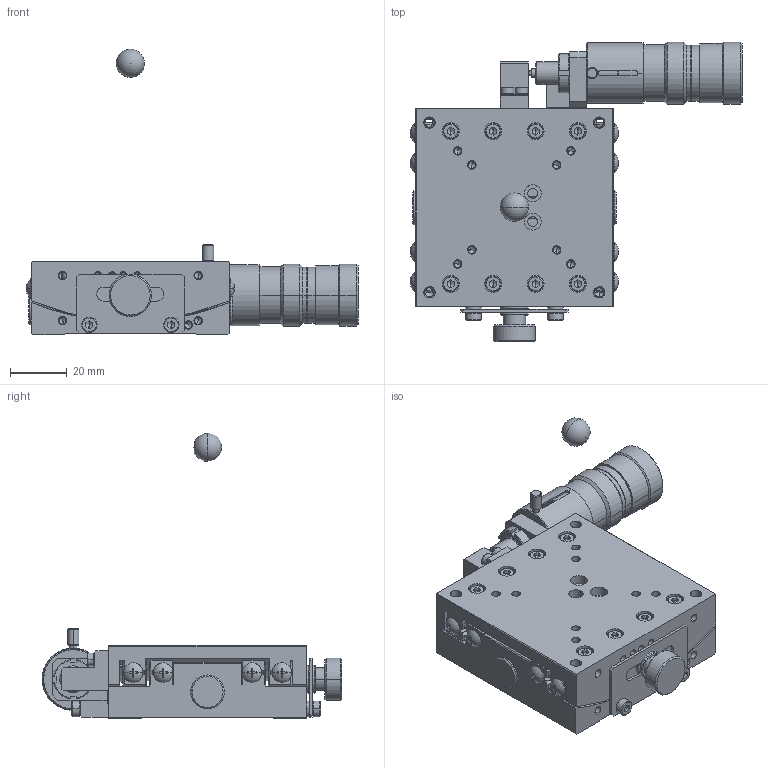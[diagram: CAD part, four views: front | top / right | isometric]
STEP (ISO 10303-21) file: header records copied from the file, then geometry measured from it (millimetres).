
FILE_DESCRIPTION (( 'STEP AP214' ), '1' );
FILE_NAME ('ST07A-S3T-R-CL.STEP', '2007-01-19T02:14:01', ( ' ' ), ( ' ' ), 'SwSTEP 2.0', 'SolidWorks 2006052', '' );
FILE_SCHEMA (( 'AUTOMOTIVE_DESIGN' ));
Length unit declared in the file: millimetre
Products named in the file (5): 002590-1020(3D)-1; ST07A-S3T-R-CL-Part-1; FFP03-13(spindle)-1; ST07A-S3T-R-CL; 002590-1011(3D)-1
Assembly tree (4 placements, depth 2):
  ST07A-S3T-R-CL
    002590-1011(3D)-1
    002590-1020(3D)-1
    ST07A-S3T-R-CL-Part-1
    FFP03-13(spindle)-1
Bounding box: 117.39 x 106 x 101 mm (x, y, z)
Volume: 131791.7 mm3; surface area: 58198 mm2
Topology: 4 solids, 35 shells, 1842 faces, 4316 edges, 2515 vertices
Faces by surface type: plane 739, cylinder 613, cone 463, sphere 19, torus 8
Entity records: 55450 total; most frequent: CARTESIAN_POINT 13407, DIRECTION 9142, ORIENTED_EDGE 8374, EDGE_CURVE 4187, AXIS2_PLACEMENT_3D 3521, VERTEX_POINT 2512, VECTOR 2100, LINE 2100
